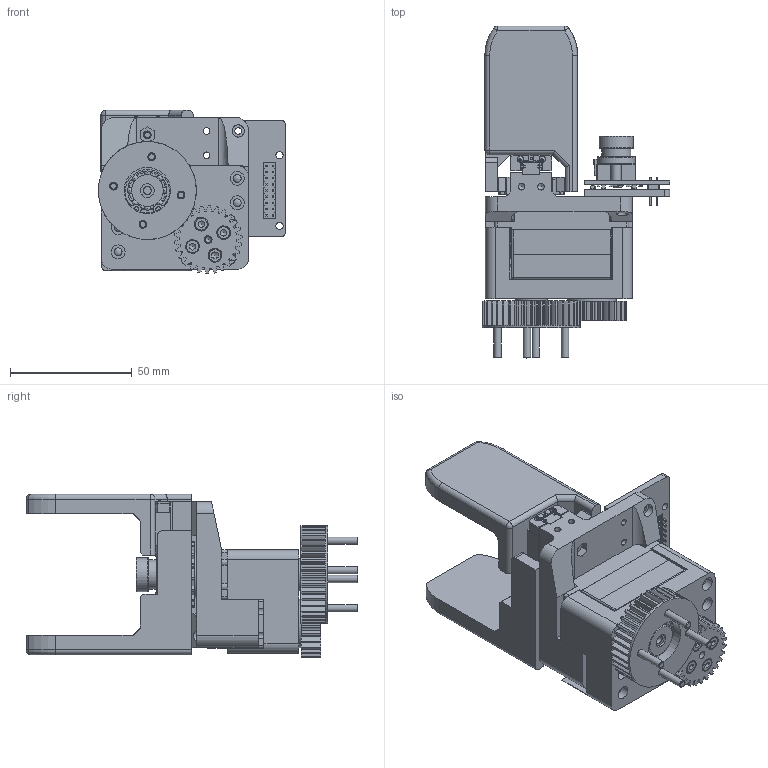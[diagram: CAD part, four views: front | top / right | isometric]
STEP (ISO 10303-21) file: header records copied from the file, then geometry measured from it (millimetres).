
FILE_DESCRIPTION(/* description */ ('STEP AP203'),/* implementation_level */ '2;1');
FILE_NAME(/* name */ 'gripper MGN7 small_axial.stp',/* time_stamp */ '2026-02-20T18:41:05+01:00',/* author */ ('R5800u'),/* organization */ (''),/* preprocessor_version */ 'ST-DEVELOPER v20',/* originating_system */ 'Autodesk Inventor 2025',/* authorisation */ '');
FILE_SCHEMA (('AUTOMOTIVE_DESIGN { 1 0 10303 214 3 1 1 }'));
Products named in the file (24): MGN7 with rail; MGN7 rail_100 mm; MGN7C_MGN7C; cremagliera2; pignone; cremagliera; 金属舵盘（驱动）; blocco_guida; TD-9512MG v1; ANSI B18.3.1M - M3x0,5 x 25, FSHCSM; UN 5721 - M3; Camera OV7670; piastra_camera; blocco_polso; ingranaggio2; Ingranaggi cilindrici; Ingranaggio cilindrico1; Ingranaggio cilindrico2; perno_ingranaggio2; %3% BS 290 - SKF 61800; blocco_pignone2; UNI 7437 - 21; AS 1420 - 1973 - M3 x 20; AS 1420 - 1973 - M3 x 12
Assembly tree (44 placements, depth 4):
  MGN7 with rail
    MGN7 rail_100 mm
    MGN7C_MGN7C  x2
    cremagliera2
    pignone
    TD-9512MG v1  x2
    金属舵盘（驱动）  x2
    cremagliera
    blocco_guida
    AS 1420 - 1973 - M3 x 12  x8
    ANSI B18.3.1M - M3x0,5 x 25, FSHCSM  x2
    UN 5721 - M3  x8
    Camera OV7670
    piastra_camera
    blocco_polso
    ingranaggio2
      Ingranaggi cilindrici
        Ingranaggio cilindrico1
        Ingranaggio cilindrico2
    perno_ingranaggio2
    %3% BS 290 - SKF 61800
    blocco_pignone2
    UNI 7437 - 21
    AS 1420 - 1973 - M3 x 20  x4
Bounding box: 77.01 x 136.43 x 67.2 mm (x, y, z)
Volume: 190669.1 mm3; surface area: 103984.5 mm2
Topology: 88 solids, 90 shells, 3942 faces, 9899 edges, 6111 vertices
Faces by surface type: plane 2130, cylinder 1128, sphere 260, cone 197, bspline 146, torus 81
Full cylindrical faces by diameter (mm): 0.8 x8, 1 x18, 1.5 x2, 1.6 x10, 1.8 x2, 2 x3, 2.4 x4, 2.459 x10, 2.5 x8, 2.659 x8, 2.7 x17, 3 x22, 3.2 x30, 3.4 x5, 4.2 x4, 4.5 x8, 4.901 x2, 5 x9, 5.5 x15, 5.6 x10, 5.7 x15, 6.2 x2, 6.5 x1, 10 x4, 10.6 x2, 12 x1, 12.88 x2, 13 x3, 14 x1, 15 x2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
Entity records: 102417 total; most frequent: CARTESIAN_POINT 26066, DIRECTION 15601, ORIENTED_EDGE 15250, EDGE_CURVE 7627, AXIS2_PLACEMENT_3D 5403, LINE 4795, VECTOR 4795, VERTEX_POINT 4753
